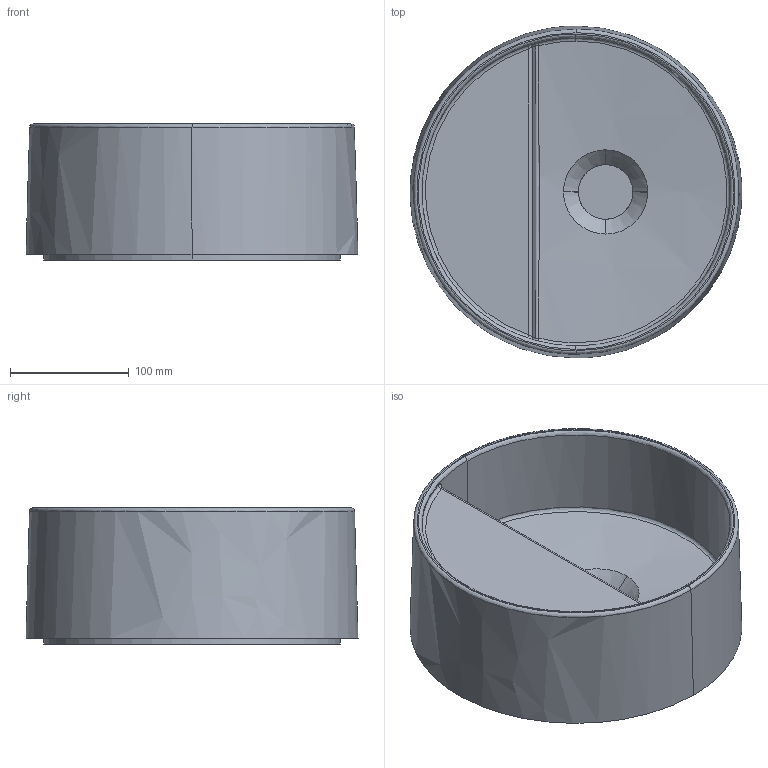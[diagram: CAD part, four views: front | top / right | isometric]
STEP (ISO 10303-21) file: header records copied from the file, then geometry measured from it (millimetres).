
FILE_DESCRIPTION(/* description */ (''),/* implementation_level */ '2;1');
FILE_NAME(/* name */ 'LPLAT',/* time_stamp */ '2024-07-12T12:24:51+02:00',/* author */ (''),/* organization */ (''),/* preprocessor_version */ 'ST-DEVELOPER v16.5',/* originating_system */ 'Rhino 7.27',/* authorisation */ '');
FILE_SCHEMA (('CONFIG_CONTROL_DESIGN'));
Length unit declared in the file: millimetre
Products named in the file (1): Document
Bounding box: 279.72 x 280 x 115 mm (x, y, z)
Surface area: 277102.7 mm2 (no closed solid volume)
Topology: 0 solids, 2 shells, 36 faces, 86 edges, 55 vertices
Faces by surface type: bspline 23, plane 8, cylinder 5
Entity records: 2643 total; most frequent: CARTESIAN_POINT 2105, ORIENTED_EDGE 149, EDGE_CURVE 79, VERTEX_POINT 48, EDGE_LOOP 39, ADVANCED_FACE 36, FACE_OUTER_BOUND 36, DIRECTION 19
